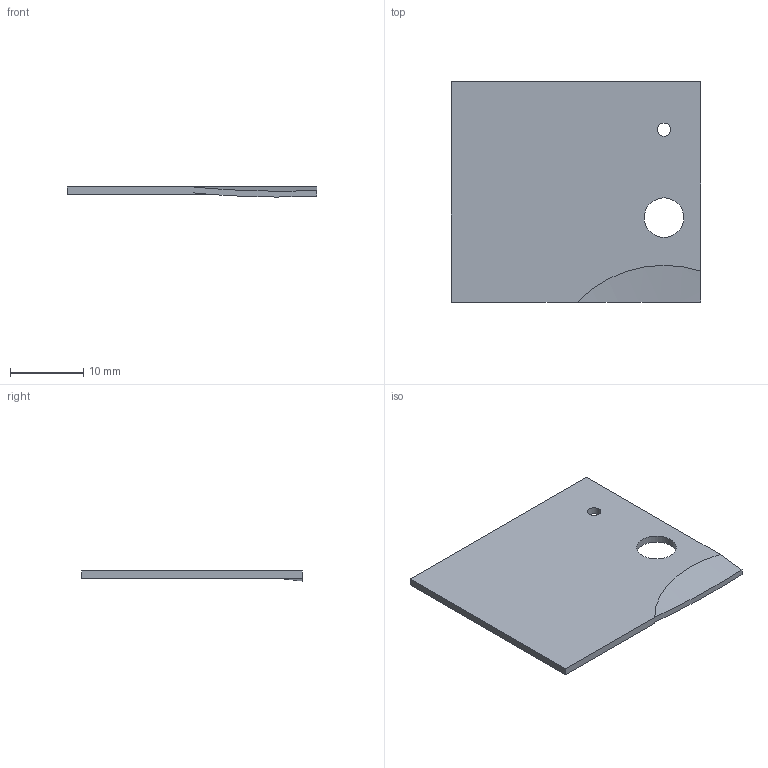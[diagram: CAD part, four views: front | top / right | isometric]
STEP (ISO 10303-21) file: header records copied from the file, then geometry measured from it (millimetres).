
FILE_DESCRIPTION(('Open CASCADE Model'),'2;1');
FILE_NAME('Open CASCADE Shape Model','2026-09-06T12:00:16',('Author'),( 'Open CASCADE'),'Open CASCADE STEP processor 7.7','Open CASCADE 7.7' ,'Unknown');
FILE_SCHEMA(('AUTOMOTIVE_DESIGN { 1 0 10303 214 1 1 1 1 }'));
Length unit declared in the file: millimetre
Products named in the file (1): Open CASCADE STEP translator 7.7 6
Bounding box: 34 x 30 x 1.37 mm (x, y, z)
Volume: 982 mm3; surface area: 2140 mm2
Topology: 1 solids, 1 shells, 11 faces, 27 edges, 18 vertices
Faces by surface type: plane 6, cylinder 3, sphere 2
Full cylindrical faces by diameter (mm): 1.8 x1, 5.4 x1
Entity records: 760 total; most frequent: CARTESIAN_POINT 233, DIRECTION 87, ORIENTED_EDGE 54, PCURVE 54, DEFINITIONAL_REPRESENTATION 54, LINE 36, VECTOR 36, EDGE_CURVE 27
